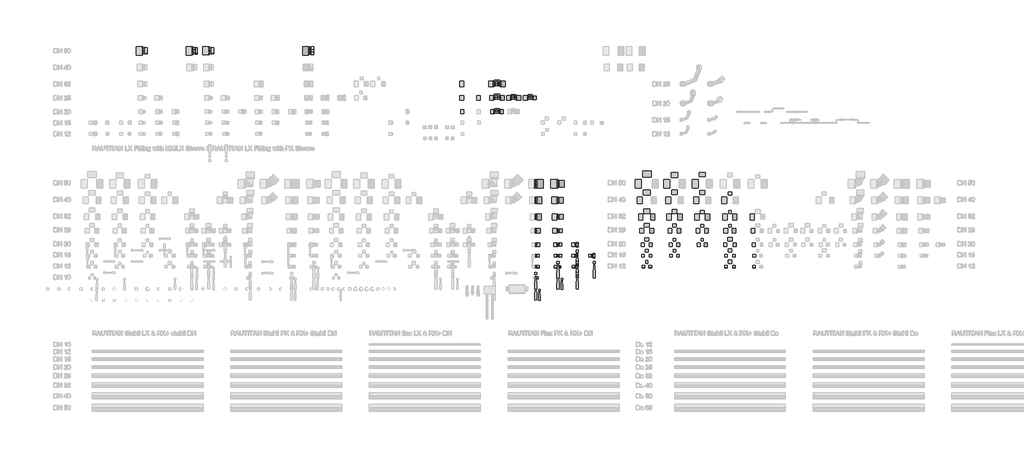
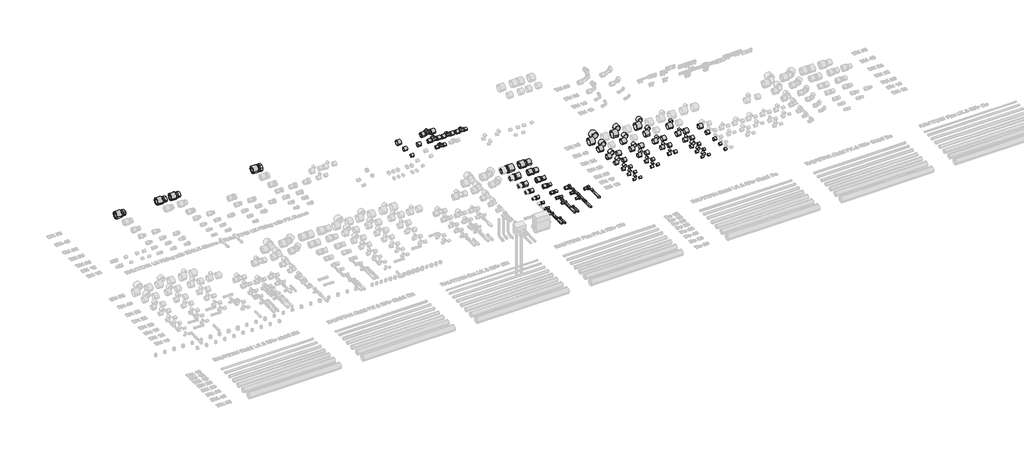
# One storey, part 6 of 18: 142 pipe fittings.
"""IFC4 building model written with IfcOpenShell, lengths in millimetres."""

from ifc_helpers import new_model, si_unit, origin, place, context, project, spatial, transform, mapped, element, save
from components import pipe_fitting_281267be, pipe_fitting_b595022a, pipe_fitting_c8a19661, pipe_fitting_2d968c61, pipe_fitting_88740129, pipe_fitting_afe3fb24, pipe_fitting_a2244846, pipe_fitting_1c786bbc, pipe_fitting_bc26b19e, pipe_fitting_cd328eca, pipe_fitting_7a5bf8d1, pipe_fitting_b25a488c, pipe_fitting_9d3ca083, pipe_fitting_fa567dae, pipe_fitting_5518694d, pipe_fitting_88b5795f, pipe_fitting_7fd93daa, pipe_fitting_5cd99660, pipe_fitting_8ed7db67, pipe_fitting_a0515556, pipe_fitting_efe7aa76, pipe_fitting_d834bf19, pipe_fitting_4a6725c8, pipe_fitting_6357771a, pipe_fitting_1b92578f, pipe_fitting_7819bb25, pipe_fitting_ce982b0c, pipe_fitting_48054694, pipe_fitting_ed985a5f, sleeve_lx_7_4_533efbed, pipe_fitting_5c01712a, dn1_c9c9eba3, dn1_749d9a03, dn1_037c3912, pipe_fitting_a8fbe6ac, pipe_fitting_02b715f6, pipe_fitting_d8f8e9d9

model = new_model("IFC4")

# Units and contexts
model_context = context("Model", 3, world=origin())
ifc_project = project(units=[si_unit("LENGTHUNIT", "METRE", prefix="MILLI")], contexts=[model_context])

# Site, building, storey
site = spatial("IfcSite", under=ifc_project)
building = spatial("IfcBuilding", under=site)
storey = spatial("IfcBuildingStorey", under=building, Name="REHAU Starting view", Elevation=0.0)

# Pipe fittings
placement = place(None, origin())
pipe_fitting_shape = pipe_fitting_281267be(model_context)
element("IfcPipeFitting", 1, ObjectType="RAUTITAN_LX_C.Coupling : RTI LX/PX C.C DN", at=placement, inside=storey, context=model_context, shape_type="MappedRepresentation", body=[
    mapped(pipe_fitting_shape, transform((4350.0, 100.0, 0.0), x_axis=(1.0, 0.0, 0.0), y_axis=(0.0, 1.0, 0.0), z_axis=(0.0, 0.0, 1.0))),
])
pipe_fitting_2_shape = pipe_fitting_b595022a(model_context)
element("IfcPipeFitting", 2, ObjectType="RAUTITAN_LX_C.Coupling : RTI LX/PX C.C DN", at=placement, inside=storey, context=model_context, shape_type="MappedRepresentation", body=[
    mapped(pipe_fitting_2_shape, transform((4350.0, 200.0, 0.0), x_axis=(1.0, 0.0, 0.0), y_axis=(0.0, 1.0, 0.0), z_axis=(0.0, 0.0, 1.0))),
])
pipe_fitting_3_shape = pipe_fitting_c8a19661(model_context)
element("IfcPipeFitting", 3, ObjectType="RAUTITAN_LX_C.Coupling : RTI LX/PX C.C DN", at=placement, inside=storey, context=model_context, shape_type="MappedRepresentation", body=[
    mapped(pipe_fitting_3_shape, transform((4350.0, 300.0, 0.0), x_axis=(1.0, 0.0, 0.0), y_axis=(0.0, 1.0, 0.0), z_axis=(0.0, 0.0, 1.0))),
])
pipe_fitting_4_shape = pipe_fitting_2d968c61(model_context)
element("IfcPipeFitting", 4, ObjectType="RAUTITAN_Union_LX : RTI LX/PX U DN", at=placement, inside=storey, context=model_context, shape_type="MappedRepresentation", body=[
    mapped(pipe_fitting_4_shape, transform((4000.0, 200.0, 0.0), x_axis=(1.0, 0.0, 0.0), y_axis=(0.0, 1.0, 0.0), z_axis=(0.0, 0.0, 1.0))),
])
pipe_fitting_5_shape = pipe_fitting_88740129(model_context)
element("IfcPipeFitting", 5, ObjectType="RAUTITAN_Union_LX : RTI LX/PX U DN", at=placement, inside=storey, context=model_context, shape_type="MappedRepresentation", body=[
    mapped(pipe_fitting_5_shape, transform((4000.0, 300.0, 0.0), x_axis=(1.0, 0.0, 0.0), y_axis=(0.0, 1.0, 0.0), z_axis=(0.0, 0.0, 1.0))),
])
pipe_fitting_6_shape = pipe_fitting_afe3fb24(model_context)
element("IfcPipeFitting", 6, ObjectType="RAUTITAN_Union_LX : RTI LX/PX U DN", at=placement, inside=storey, context=model_context, shape_type="MappedRepresentation", body=[
    mapped(pipe_fitting_6_shape, transform((4000.0, 425.0, 0.0), x_axis=(1.0, 0.0, 0.0), y_axis=(0.0, 1.0, 0.0), z_axis=(0.0, 0.0, 1.0))),
])
pipe_fitting_7_shape = pipe_fitting_a2244846(model_context)
element("IfcPipeFitting", 7, ObjectType="RAUTITAN_Union_LX : RTI LX/PX U DN", at=placement, inside=storey, context=model_context, shape_type="MappedRepresentation", body=[
    mapped(pipe_fitting_7_shape, transform((4000.0, 700.0, 0.0), x_axis=(1.0, 0.0, 0.0), y_axis=(0.0, 1.0, 0.0), z_axis=(0.0, 0.0, 1.0))),
])
pipe_fitting_8_shape = pipe_fitting_1c786bbc(model_context)
element("IfcPipeFitting", 8, ObjectType="RAUTITAN_Union_LX : RTI LX/PX U DN", at=placement, inside=storey, context=model_context, shape_type="MappedRepresentation", body=[
    mapped(pipe_fitting_8_shape, transform((4000.0, 850.0, 0.0), x_axis=(1.0, 0.0, 0.0), y_axis=(0.0, 1.0, 0.0), z_axis=(0.0, 0.0, 1.0))),
])
pipe_fitting_9_shape = pipe_fitting_bc26b19e(model_context)
element("IfcPipeFitting", 9, ObjectType="REHAU_RAUTITAN_T-piece RX+, outlet with internal thread : REHAU_RAUTITAN_T-piece RX+, outlet with internal thread", at=placement, inside=storey, context=model_context, shape_type="MappedRepresentation", body=[
    mapped(pipe_fitting_9_shape, transform((3650.0, 1625.0, 0.0), x_axis=(1.0, 0.0, 0.0), y_axis=(0.0, 1.0, 0.0), z_axis=(0.0, 0.0, 1.0))),
])
pipe_fitting_10_shape = pipe_fitting_cd328eca(model_context)
element("IfcPipeFitting", 10, ObjectType="RAUTITAN_Adapter_external_thread : RTI A external DE", at=placement, inside=storey, context=model_context, shape_type="MappedRepresentation", body=[
    mapped(pipe_fitting_10_shape, transform((455.77, 2050.0, 0.0), x_axis=(1.0, 0.0, 0.0), y_axis=(0.0, 1.0, 0.0), z_axis=(0.0, 0.0, 1.0))),
])
pipe_fitting_11_shape = pipe_fitting_7a5bf8d1(model_context)
element("IfcPipeFitting", 11, ObjectType="RAUTITAN_Sleeve PX2 : RTI S PX 2", at=placement, inside=storey, context=model_context, shape_type="MappedRepresentation", body=[
    mapped(pipe_fitting_11_shape, transform((450.0, 2050.0, 0.0), x_axis=(-1.0, 0.0, 0.0), y_axis=(0.0, -1.0, 0.0), z_axis=(0.0, 0.0, 1.0))),
])
element("IfcPipeFitting", 12, ObjectType="RAUTITAN_Adapter_external_thread LX+G_LX : RTI A external LX+G_LX DE", at=placement, inside=storey, context=model_context, shape_type="MappedRepresentation", body=[
    mapped(pipe_fitting_10_shape, transform((1055.77, 2050.0, 0.0), x_axis=(1.0, 0.0, 0.0), y_axis=(0.0, 1.0, 0.0), z_axis=(0.0, 0.0, 1.0))),
])
pipe_fitting_12_shape = pipe_fitting_b25a488c(model_context)
element("IfcPipeFitting", 13, ObjectType="RAUTITAN_Sleeve SDR 7,1 : RTI S SDR 7,4", at=placement, inside=storey, context=model_context, shape_type="MappedRepresentation", body=[
    mapped(pipe_fitting_12_shape, transform((1050.0, 2050.0, 0.0), x_axis=(-1.0, 0.0, 0.0), y_axis=(0.0, -1.0, 0.0), z_axis=(0.0, 0.0, 1.0))),
])
pipe_fitting_13_shape = pipe_fitting_9d3ca083(model_context)
element("IfcPipeFitting", 14, ObjectType="REHAU_RAUTITAN_T-piece RX+, outlet with internal thread : REHAU_RAUTITAN_T-piece RX+, outlet with internal thread", at=placement, inside=storey, context=model_context, shape_type="MappedRepresentation", body=[
    mapped(pipe_fitting_13_shape, transform((3950.0, 1625.0, 0.0), x_axis=(1.0, 0.0, 0.0), y_axis=(0.0, 1.0, 0.0), z_axis=(0.0, 0.0, 1.0))),
])
pipe_fitting_14_shape = pipe_fitting_fa567dae(model_context)
element("IfcPipeFitting", 15, ObjectType="REHAU_RAUTITAN_T-piece RX+, outlet with internal thread : REHAU_RAUTITAN_T-piece RX+, outlet with internal thread", at=placement, inside=storey, context=model_context, shape_type="MappedRepresentation", body=[
    mapped(pipe_fitting_14_shape, transform((3800.0, 1625.0, 0.0), x_axis=(1.0, 0.0, 0.0), y_axis=(0.0, 1.0, 0.0), z_axis=(0.0, 0.0, 1.0))),
])
pipe_fitting_15_shape = pipe_fitting_5518694d(model_context)
element("IfcPipeFitting", 16, ObjectType="REHAU_RAUTITAN_T-piece RX+, outlet with internal thread : REHAU_RAUTITAN_T-piece RX+, outlet with internal thread", at=placement, inside=storey, context=model_context, shape_type="MappedRepresentation", body=[
    mapped(pipe_fitting_15_shape, transform((3650.0, 1750.0, 0.0), x_axis=(1.0, 0.0, 0.0), y_axis=(0.0, 1.0, 0.0), z_axis=(0.0, 0.0, 1.0))),
])
pipe_fitting_16_shape = pipe_fitting_88b5795f(model_context)
element("IfcPipeFitting", 17, ObjectType="REHAU_RAUTITAN_T-piece RX+, outlet with internal thread : REHAU_RAUTITAN_T-piece RX+, outlet with internal thread", at=placement, inside=storey, context=model_context, shape_type="MappedRepresentation", body=[
    mapped(pipe_fitting_16_shape, transform((3650.0, 1500.0, 0.0), x_axis=(1.0, 0.0, 0.0), y_axis=(0.0, 1.0, 0.0), z_axis=(0.0, 0.0, 1.0))),
])
pipe_fitting_17_shape = pipe_fitting_7fd93daa(model_context)
element("IfcPipeFitting", 18, ObjectType="REHAU_RAUTITAN_Adaptor_RX+ stabil, with external thread : REHAU_RAUTITAN_Adaptor_RX+ stabil, with external thread", at=placement, inside=storey, context=model_context, shape_type="MappedRepresentation", body=[
    mapped(pipe_fitting_17_shape, transform((907.9, 2050.0, 0.0), x_axis=(1.0, 0.0, 0.0), y_axis=(0.0, 1.0, 0.0), z_axis=(0.0, 0.0, 1.0))),
])
pipe_fitting_18_shape = pipe_fitting_5cd99660(model_context)
element("IfcPipeFitting", 19, ObjectType="REHAU_RAUTITAN_Adaptor_RX+_union nut : REHAU_RAUTITAN_Adaptor_RX+_union nut", at=placement, inside=storey, context=model_context, shape_type="MappedRepresentation", body=[
    mapped(pipe_fitting_18_shape, transform((1966.2, 2050.0, 0.0), x_axis=(1.0, 0.0, 0.0), y_axis=(0.0, 1.0, 0.0), z_axis=(0.0, 0.0, 1.0))),
])
pipe_fitting_19_shape = pipe_fitting_8ed7db67(model_context)
element("IfcPipeFitting", 20, ObjectType="RAUTITAN_Union_LX : RTI LX/PX U DN", at=placement, inside=storey, context=model_context, shape_type="MappedRepresentation", body=[
    mapped(pipe_fitting_19_shape, transform((4000.0, 100.0, 0.0), x_axis=(1.0, 0.0, 0.0), y_axis=(0.0, 1.0, 0.0), z_axis=(0.0, 0.0, 1.0))),
])
pipe_fitting_20_shape = pipe_fitting_a0515556(model_context)
element("IfcPipeFitting", 21, ObjectType="RAUTITAN_Union_LX : RTI LX/PX U DN", at=placement, inside=storey, context=model_context, shape_type="MappedRepresentation", body=[
    mapped(pipe_fitting_20_shape, transform((4000.0, 0.0, 0.0), x_axis=(1.0, 0.0, 0.0), y_axis=(0.0, 1.0, 0.0), z_axis=(0.0, 0.0, 1.0))),
])
pipe_fitting_21_shape = pipe_fitting_efe7aa76(model_context)
element("IfcPipeFitting", 22, ObjectType="RAUTITAN_Transition_LX : RTI LX/PX Tr DN", at=placement, inside=storey, context=model_context, shape_type="MappedRepresentation", body=[
    mapped(pipe_fitting_21_shape, transform((4200.0, 550.0, 0.0), x_axis=(1.0, 0.0, 0.0), y_axis=(0.0, 1.0, 0.0), z_axis=(0.0, 0.0, 1.0))),
])
pipe_fitting_22_shape = pipe_fitting_d834bf19(model_context)
element("IfcPipeFitting", 23, ObjectType="RAUTITAN_Transition_LX : RTI LX/PX Tr DN", at=placement, inside=storey, context=model_context, shape_type="MappedRepresentation", body=[
    mapped(pipe_fitting_22_shape, transform((4200.0, 425.0, 0.0), x_axis=(1.0, 0.0, 0.0), y_axis=(0.0, 1.0, 0.0), z_axis=(0.0, 0.0, 1.0))),
])
pipe_fitting_23_shape = pipe_fitting_4a6725c8(model_context)
element("IfcPipeFitting", 24, ObjectType="RAUTITAN_Transition_LX : RTI LX/PX Tr DN", at=placement, inside=storey, context=model_context, shape_type="MappedRepresentation", body=[
    mapped(pipe_fitting_23_shape, transform((4200.0, 300.0, 0.0), x_axis=(1.0, 0.0, 0.0), y_axis=(0.0, 1.0, 0.0), z_axis=(0.0, 0.0, 1.0))),
])
pipe_fitting_24_shape = pipe_fitting_6357771a(model_context)
element("IfcPipeFitting", 25, ObjectType="RAUTITAN_Transition_LX : RTI LX/PX Tr DN", at=placement, inside=storey, context=model_context, shape_type="MappedRepresentation", body=[
    mapped(pipe_fitting_24_shape, transform((4200.0, 700.0, 0.0), x_axis=(1.0, 0.0, 0.0), y_axis=(0.0, 1.0, 0.0), z_axis=(0.0, 0.0, 1.0))),
])
pipe_fitting_25_shape = pipe_fitting_1b92578f(model_context)
element("IfcPipeFitting", 26, ObjectType="RAUTITAN_Transition_LX : RTI LX/PX Tr DN", at=placement, inside=storey, context=model_context, shape_type="MappedRepresentation", body=[
    mapped(pipe_fitting_25_shape, transform((4200.0, 850.0, 0.0), x_axis=(1.0, 0.0, 0.0), y_axis=(0.0, 1.0, 0.0), z_axis=(0.0, 0.0, 1.0))),
])
pipe_fitting_26_shape = pipe_fitting_7819bb25(model_context)
element("IfcPipeFitting", 27, ObjectType="RAUTITAN_Transition_LX : RTI LX/PX Tr DN", at=placement, inside=storey, context=model_context, shape_type="MappedRepresentation", body=[
    mapped(pipe_fitting_26_shape, transform((4200.0, 200.0, 0.0), x_axis=(1.0, 0.0, 0.0), y_axis=(0.0, 1.0, 0.0), z_axis=(0.0, 0.0, 1.0))),
])
pipe_fitting_27_shape = pipe_fitting_ce982b0c(model_context)
element("IfcPipeFitting", 28, ObjectType="RAUTITAN_Transition_LX : RTI LX/PX Tr DN", at=placement, inside=storey, context=model_context, shape_type="MappedRepresentation", body=[
    mapped(pipe_fitting_27_shape, transform((4200.0, 100.0, 0.0), x_axis=(1.0, 0.0, 0.0), y_axis=(0.0, 1.0, 0.0), z_axis=(0.0, 0.0, 1.0))),
])
pipe_fitting_28_shape = pipe_fitting_48054694(model_context)
element("IfcPipeFitting", 29, ObjectType="RAUTITAN_Union_LX : RTI LX/PX U DN", at=placement, inside=storey, context=model_context, shape_type="MappedRepresentation", body=[
    mapped(pipe_fitting_28_shape, transform((4000.0, 550.0, 0.0), x_axis=(1.0, 0.0, 0.0), y_axis=(0.0, 1.0, 0.0), z_axis=(0.0, 0.0, 1.0))),
])
pipe_fitting_29_shape = pipe_fitting_ed985a5f(model_context)
element("IfcPipeFitting", 30, ObjectType="RAUTITAN_LX_C.Coupling : RTI LX/PX C.C DN", at=placement, inside=storey, context=model_context, shape_type="MappedRepresentation", body=[
    mapped(pipe_fitting_29_shape, transform((4500.0, 200.0, 0.0), x_axis=(1.0, 0.0, 0.0), y_axis=(0.0, 1.0, 0.0), z_axis=(0.0, 0.0, 1.0))),
])
sleeve_lx_7_4_shape = sleeve_lx_7_4_533efbed(model_context)
element("IfcPipeFitting", 31, ObjectType="Sleeve : LX 7,4", at=placement, inside=storey, context=model_context, shape_type="MappedRepresentation", body=[
    mapped(sleeve_lx_7_4_shape, transform((4005.5, 0.0, 0.0), x_axis=(1.0, 0.0, 0.0), y_axis=(0.0, 1.0, 0.0), z_axis=(0.0, 0.0, 1.0))),
])
element("IfcPipeFitting", 32, ObjectType="Sleeve : LX 7,4", at=placement, inside=storey, context=model_context, shape_type="MappedRepresentation", body=[
    mapped(sleeve_lx_7_4_shape, transform((4208.5, 100.0, 0.0), x_axis=(1.0, 0.0, 0.0), y_axis=(0.0, 1.0, 0.0), z_axis=(0.0, 0.0, 1.0))),
])
pipe_fitting_30_shape = pipe_fitting_5c01712a(model_context)
element("IfcPipeFitting", 33, ObjectType="Sleeve : LX 7,4", at=placement, inside=storey, context=model_context, shape_type="MappedRepresentation", body=[
    mapped(pipe_fitting_30_shape, transform((4189.0, 700.0, 0.0), x_axis=(-1.0, 0.0, 0.0), y_axis=(0.0, -1.0, 0.0), z_axis=(0.0, 0.0, 1.0))),
])
element("IfcPipeFitting", 34, ObjectType="Sleeve : LX 7,4", at=placement, inside=storey, context=model_context, shape_type="MappedRepresentation", body=[
    mapped(pipe_fitting_30_shape, transform((4211.75, 850.0, 0.0), x_axis=(1.0, 0.0, 0.0), y_axis=(0.0, 1.0, 0.0), z_axis=(0.0, 0.0, 1.0))),
])
element("IfcPipeFitting", 35, ObjectType="Sleeve : LX 7,4", at=placement, inside=storey, context=model_context, shape_type="MappedRepresentation", body=[
    mapped(pipe_fitting_30_shape, transform((4011.0, 700.0, 0.0), x_axis=(1.0, 0.0, 0.0), y_axis=(0.0, 1.0, 0.0), z_axis=(0.0, 0.0, 1.0))),
])
element("IfcPipeFitting", 36, ObjectType="Sleeve : LX 7,4", at=placement, inside=storey, context=model_context, shape_type="MappedRepresentation", body=[
    mapped(pipe_fitting_12_shape, transform((4188.25, 850.0, 0.0), x_axis=(-1.0, 0.0, 0.0), y_axis=(0.0, -1.0, 0.0), z_axis=(0.0, 0.0, 1.0))),
])
element("IfcPipeFitting", 37, ObjectType="Sleeve : LX 7,4", at=placement, inside=storey, context=model_context, shape_type="MappedRepresentation", body=[
    mapped(pipe_fitting_12_shape, transform((4012.5, 850.0, 0.0), x_axis=(1.0, 0.0, 0.0), y_axis=(0.0, 1.0, 0.0), z_axis=(0.0, 0.0, 1.0))),
])
dn1_shape = dn1_c9c9eba3(model_context)
element("IfcPipeFitting", 38, ObjectType="Sleeve : PX 7,4", at=placement, inside=storey, context=model_context, shape_type="MappedRepresentation", body=[
    mapped(dn1_shape, transform((4981.0, 100.0, 0.0), x_axis=(-1.0, 0.0, 0.0), y_axis=(0.0, -1.0, 0.0), z_axis=(0.0, 0.0, 1.0))),
])
element("IfcPipeFitting", 39, ObjectType="Sleeve : PX 7,4", at=placement, inside=storey, context=model_context, shape_type="MappedRepresentation", body=[
    mapped(dn1_shape, transform((5000.0, 132.3, 0.0), x_axis=(0.0, 1.0, 0.0), y_axis=(-1.0, 0.0, 0.0), z_axis=(0.0, 0.0, 1.0))),
])
element("IfcPipeFitting", 40, ObjectType="Sleeve : PX 7,4", at=placement, inside=storey, context=model_context, shape_type="MappedRepresentation", body=[
    mapped(dn1_shape, transform((5019.0, 100.0, 0.0), x_axis=(1.0, 0.0, 0.0), y_axis=(0.0, 1.0, 0.0), z_axis=(0.0, 0.0, 1.0))),
])
element("IfcPipeFitting", 41, ObjectType="Sleeve : PX 7,4", at=placement, inside=storey, context=model_context, shape_type="MappedRepresentation", body=[
    mapped(dn1_shape, transform((5250.0, 232.3, 0.0), x_axis=(0.0, 1.0, 0.0), y_axis=(-1.0, 0.0, 0.0), z_axis=(0.0, 0.0, 1.0))),
])
element("IfcPipeFitting", 42, ObjectType="Sleeve : PX 7,4", at=placement, inside=storey, context=model_context, shape_type="MappedRepresentation", body=[
    mapped(dn1_shape, transform((5500.0, 332.3, 0.0), x_axis=(0.0, 1.0, 0.0), y_axis=(-1.0, 0.0, 0.0), z_axis=(0.0, 0.0, 1.0))),
])
element("IfcPipeFitting", 43, ObjectType="Sleeve : PX 7,4", at=placement, inside=storey, context=model_context, shape_type="MappedRepresentation", body=[
    mapped(dn1_shape, transform((5750.0, 457.3, 0.0), x_axis=(0.0, 1.0, 0.0), y_axis=(-1.0, 0.0, 0.0), z_axis=(0.0, 0.0, 1.0))),
])
element("IfcPipeFitting", 44, ObjectType="Sleeve : PX 7,4", at=placement, inside=storey, context=model_context, shape_type="MappedRepresentation", body=[
    mapped(dn1_shape, transform((5979.5, 100.0, 0.0), x_axis=(-1.0, 0.0, 0.0), y_axis=(0.0, -1.0, 0.0), z_axis=(0.0, 0.0, 1.0))),
])
element("IfcPipeFitting", 45, ObjectType="Sleeve : PX 7,4", at=placement, inside=storey, context=model_context, shape_type="MappedRepresentation", body=[
    mapped(dn1_shape, transform((5727.0, 100.0, 0.0), x_axis=(-1.0, 0.0, 0.0), y_axis=(0.0, -1.0, 0.0), z_axis=(0.0, 0.0, 1.0))),
])
element("IfcPipeFitting", 46, ObjectType="Sleeve : PX 7,4", at=placement, inside=storey, context=model_context, shape_type="MappedRepresentation", body=[
    mapped(dn1_shape, transform((5773.0, 100.0, 0.0), x_axis=(1.0, 0.0, 0.0), y_axis=(0.0, 1.0, 0.0), z_axis=(0.0, 0.0, 1.0))),
])
element("IfcPipeFitting", 47, ObjectType="Sleeve : PX 7,4", at=placement, inside=storey, context=model_context, shape_type="MappedRepresentation", body=[
    mapped(dn1_shape, transform((4209.55, 200.0, 0.0), x_axis=(1.0, 0.0, 0.0), y_axis=(0.0, 1.0, 0.0), z_axis=(0.0, 0.0, 1.0))),
])
element("IfcPipeFitting", 48, ObjectType="Sleeve : PX 7,4", at=placement, inside=storey, context=model_context, shape_type="MappedRepresentation", body=[
    mapped(dn1_shape, transform((4006.3, 100.0, 0.0), x_axis=(1.0, 0.0, 0.0), y_axis=(0.0, 1.0, 0.0), z_axis=(0.0, 0.0, 1.0))),
])
element("IfcPipeFitting", 49, ObjectType="Sleeve : PX 7,4", at=placement, inside=storey, context=model_context, shape_type="MappedRepresentation", body=[
    mapped(dn1_shape, transform((4191.5, 100.0, 0.0), x_axis=(-1.0, 0.0, 0.0), y_axis=(0.0, -1.0, 0.0), z_axis=(0.0, 0.0, 1.0))),
])
dn1_2_shape = dn1_749d9a03(model_context)
element("IfcPipeFitting", 50, ObjectType="Sleeve : PX 7,4", at=placement, inside=storey, context=model_context, shape_type="MappedRepresentation", body=[
    mapped(dn1_2_shape, transform((4978.9, 200.0, 0.0), x_axis=(-1.0, 0.0, 0.0), y_axis=(0.0, -1.0, 0.0), z_axis=(0.0, 0.0, 1.0))),
])
element("IfcPipeFitting", 51, ObjectType="Sleeve : PX 7,4", at=placement, inside=storey, context=model_context, shape_type="MappedRepresentation", body=[
    mapped(dn1_2_shape, transform((5000.0, 232.3, 0.0), x_axis=(0.0, 1.0, 0.0), y_axis=(-1.0, 0.0, 0.0), z_axis=(0.0, 0.0, 1.0))),
])
element("IfcPipeFitting", 52, ObjectType="Sleeve : PX 7,4", at=placement, inside=storey, context=model_context, shape_type="MappedRepresentation", body=[
    mapped(dn1_2_shape, transform((5021.1, 200.0, 0.0), x_axis=(1.0, 0.0, 0.0), y_axis=(0.0, 1.0, 0.0), z_axis=(0.0, 0.0, 1.0))),
])
element("IfcPipeFitting", 53, ObjectType="Sleeve : PX 7,4", at=placement, inside=storey, context=model_context, shape_type="MappedRepresentation", body=[
    mapped(dn1_2_shape, transform((5250.0, 332.3, 0.0), x_axis=(0.0, 1.0, 0.0), y_axis=(-1.0, 0.0, 0.0), z_axis=(0.0, 0.0, 1.0))),
])
element("IfcPipeFitting", 54, ObjectType="Sleeve : PX 7,4", at=placement, inside=storey, context=model_context, shape_type="MappedRepresentation", body=[
    mapped(dn1_2_shape, transform((5230.9, 200.0, 0.0), x_axis=(-1.0, 0.0, 0.0), y_axis=(0.0, -1.0, 0.0), z_axis=(0.0, 0.0, 1.0))),
])
element("IfcPipeFitting", 55, ObjectType="Sleeve : PX 7,4", at=placement, inside=storey, context=model_context, shape_type="MappedRepresentation", body=[
    mapped(dn1_2_shape, transform((5269.1, 200.0, 0.0), x_axis=(1.0, 0.0, 0.0), y_axis=(0.0, 1.0, 0.0), z_axis=(0.0, 0.0, 1.0))),
])
element("IfcPipeFitting", 56, ObjectType="Sleeve : PX 7,4", at=placement, inside=storey, context=model_context, shape_type="MappedRepresentation", body=[
    mapped(dn1_2_shape, transform((5500.0, 457.3, 0.0), x_axis=(0.0, 1.0, 0.0), y_axis=(-1.0, 0.0, 0.0), z_axis=(0.0, 0.0, 1.0))),
])
element("IfcPipeFitting", 57, ObjectType="Sleeve : PX 7,4", at=placement, inside=storey, context=model_context, shape_type="MappedRepresentation", body=[
    mapped(dn1_2_shape, transform((5750.0, 582.3, 0.0), x_axis=(0.0, 1.0, 0.0), y_axis=(-1.0, 0.0, 0.0), z_axis=(0.0, 0.0, 1.0))),
])
element("IfcPipeFitting", 58, ObjectType="Sleeve : PX 7,4", at=placement, inside=storey, context=model_context, shape_type="MappedRepresentation", body=[
    mapped(dn1_2_shape, transform((5726.4, 200.0, 0.0), x_axis=(-1.0, 0.0, 0.0), y_axis=(0.0, -1.0, 0.0), z_axis=(0.0, 0.0, 1.0))),
])
element("IfcPipeFitting", 59, ObjectType="Sleeve : PX 7,4", at=placement, inside=storey, context=model_context, shape_type="MappedRepresentation", body=[
    mapped(dn1_2_shape, transform((5773.6, 200.0, 0.0), x_axis=(1.0, 0.0, 0.0), y_axis=(0.0, 1.0, 0.0), z_axis=(0.0, 0.0, 1.0))),
])
element("IfcPipeFitting", 60, ObjectType="Sleeve : PX 7,4", at=placement, inside=storey, context=model_context, shape_type="MappedRepresentation", body=[
    mapped(dn1_2_shape, transform((5980.9, 200.0, 0.0), x_axis=(-1.0, 0.0, 0.0), y_axis=(0.0, -1.0, 0.0), z_axis=(0.0, 0.0, 1.0))),
])
element("IfcPipeFitting", 61, ObjectType="Sleeve : PX 7,4", at=placement, inside=storey, context=model_context, shape_type="MappedRepresentation", body=[
    mapped(dn1_2_shape, transform((4210.0, 300.0, 0.0), x_axis=(1.0, 0.0, 0.0), y_axis=(0.0, 1.0, 0.0), z_axis=(0.0, 0.0, 1.0))),
])
element("IfcPipeFitting", 62, ObjectType="Sleeve : PX 7,4", at=placement, inside=storey, context=model_context, shape_type="MappedRepresentation", body=[
    mapped(dn1_2_shape, transform((4190.45, 200.0, 0.0), x_axis=(-1.0, 0.0, 0.0), y_axis=(0.0, -1.0, 0.0), z_axis=(0.0, 0.0, 1.0))),
])
element("IfcPipeFitting", 63, ObjectType="Sleeve : PX 7,4", at=placement, inside=storey, context=model_context, shape_type="MappedRepresentation", body=[
    mapped(dn1_2_shape, transform((4006.8, 200.0, 0.0), x_axis=(1.0, 0.0, 0.0), y_axis=(0.0, 1.0, 0.0), z_axis=(0.0, 0.0, 1.0))),
])
dn1_3_shape = dn1_037c3912(model_context)
element("IfcPipeFitting", 64, ObjectType="Sleeve : PX 7,4", at=placement, inside=storey, context=model_context, shape_type="MappedRepresentation", body=[
    mapped(dn1_3_shape, transform((4976.2, 300.0, 0.0), x_axis=(-1.0, 0.0, 0.0), y_axis=(0.0, -1.0, 0.0), z_axis=(0.0, 0.0, 1.0))),
])
element("IfcPipeFitting", 65, ObjectType="Sleeve : PX 7,4", at=placement, inside=storey, context=model_context, shape_type="MappedRepresentation", body=[
    mapped(dn1_3_shape, transform((5000.0, 332.3, 0.0), x_axis=(0.0, 1.0, 0.0), y_axis=(-1.0, 0.0, 0.0), z_axis=(0.0, 0.0, 1.0))),
])
element("IfcPipeFitting", 66, ObjectType="Sleeve : PX 7,4", at=placement, inside=storey, context=model_context, shape_type="MappedRepresentation", body=[
    mapped(dn1_3_shape, transform((5023.8, 300.0, 0.0), x_axis=(1.0, 0.0, 0.0), y_axis=(0.0, 1.0, 0.0), z_axis=(0.0, 0.0, 1.0))),
])
element("IfcPipeFitting", 67, ObjectType="Sleeve : PX 7,4", at=placement, inside=storey, context=model_context, shape_type="MappedRepresentation", body=[
    mapped(dn1_3_shape, transform((5228.7, 300.0, 0.0), x_axis=(-1.0, 0.0, 0.0), y_axis=(0.0, -1.0, 0.0), z_axis=(0.0, 0.0, 1.0))),
])
element("IfcPipeFitting", 68, ObjectType="Sleeve : PX 7,4", at=placement, inside=storey, context=model_context, shape_type="MappedRepresentation", body=[
    mapped(dn1_3_shape, transform((5271.3, 300.0, 0.0), x_axis=(1.0, 0.0, 0.0), y_axis=(0.0, 1.0, 0.0), z_axis=(0.0, 0.0, 1.0))),
])
element("IfcPipeFitting", 69, ObjectType="Sleeve : PX 7,4", at=placement, inside=storey, context=model_context, shape_type="MappedRepresentation", body=[
    mapped(dn1_3_shape, transform((5250.0, 457.3, 0.0), x_axis=(0.0, 1.0, 0.0), y_axis=(-1.0, 0.0, 0.0), z_axis=(0.0, 0.0, 1.0))),
])
element("IfcPipeFitting", 70, ObjectType="Sleeve : PX 7,4", at=placement, inside=storey, context=model_context, shape_type="MappedRepresentation", body=[
    mapped(dn1_3_shape, transform((5480.7, 300.0, 0.0), x_axis=(-1.0, 0.0, 0.0), y_axis=(0.0, -1.0, 0.0), z_axis=(0.0, 0.0, 1.0))),
])
element("IfcPipeFitting", 71, ObjectType="Sleeve : PX 7,4", at=placement, inside=storey, context=model_context, shape_type="MappedRepresentation", body=[
    mapped(dn1_3_shape, transform((5519.3, 300.0, 0.0), x_axis=(1.0, 0.0, 0.0), y_axis=(0.0, 1.0, 0.0), z_axis=(0.0, 0.0, 1.0))),
])
element("IfcPipeFitting", 72, ObjectType="Sleeve : PX 7,4", at=placement, inside=storey, context=model_context, shape_type="MappedRepresentation", body=[
    mapped(dn1_3_shape, transform((5500.0, 582.3, 0.0), x_axis=(0.0, 1.0, 0.0), y_axis=(-1.0, 0.0, 0.0), z_axis=(0.0, 0.0, 1.0))),
])
element("IfcPipeFitting", 73, ObjectType="Sleeve : PX 7,4", at=placement, inside=storey, context=model_context, shape_type="MappedRepresentation", body=[
    mapped(dn1_3_shape, transform((5722.7, 300.0, 0.0), x_axis=(-1.0, 0.0, 0.0), y_axis=(0.0, -1.0, 0.0), z_axis=(0.0, 0.0, 1.0))),
])
element("IfcPipeFitting", 74, ObjectType="Sleeve : PX 7,4", at=placement, inside=storey, context=model_context, shape_type="MappedRepresentation", body=[
    mapped(dn1_3_shape, transform((5777.3, 300.0, 0.0), x_axis=(1.0, 0.0, 0.0), y_axis=(0.0, 1.0, 0.0), z_axis=(0.0, 0.0, 1.0))),
])
element("IfcPipeFitting", 75, ObjectType="Sleeve : PX 7,4", at=placement, inside=storey, context=model_context, shape_type="MappedRepresentation", body=[
    mapped(dn1_3_shape, transform((5750.0, 232.3, 0.0), x_axis=(0.0, 1.0, 0.0), y_axis=(-1.0, 0.0, 0.0), z_axis=(0.0, 0.0, 1.0))),
])
element("IfcPipeFitting", 76, ObjectType="Sleeve : PX 7,4", at=placement, inside=storey, context=model_context, shape_type="MappedRepresentation", body=[
    mapped(dn1_3_shape, transform((5750.0, 132.3, 0.0), x_axis=(0.0, 1.0, 0.0), y_axis=(-1.0, 0.0, 0.0), z_axis=(0.0, 0.0, 1.0))),
])
element("IfcPipeFitting", 77, ObjectType="Sleeve : PX 7,4", at=placement, inside=storey, context=model_context, shape_type="MappedRepresentation", body=[
    mapped(dn1_3_shape, transform((5978.7, 300.0, 0.0), x_axis=(-1.0, 0.0, 0.0), y_axis=(0.0, -1.0, 0.0), z_axis=(0.0, 0.0, 1.0))),
])
element("IfcPipeFitting", 78, ObjectType="Sleeve : PX 7,4", at=placement, inside=storey, context=model_context, shape_type="MappedRepresentation", body=[
    mapped(dn1_3_shape, transform((5750.0, 749.0, 0.0), x_axis=(0.0, 1.0, 0.0), y_axis=(-1.0, 0.0, 0.0), z_axis=(0.0, 0.0, 1.0))),
])
element("IfcPipeFitting", 79, ObjectType="Sleeve : PX 7,4", at=placement, inside=storey, context=model_context, shape_type="MappedRepresentation", body=[
    mapped(dn1_3_shape, transform((4211.85, 425.0, 0.0), x_axis=(1.0, 0.0, 0.0), y_axis=(0.0, 1.0, 0.0), z_axis=(0.0, 0.0, 1.0))),
])
element("IfcPipeFitting", 80, ObjectType="Sleeve : PX 7,4", at=placement, inside=storey, context=model_context, shape_type="MappedRepresentation", body=[
    mapped(dn1_3_shape, transform((4190.0, 300.0, 0.0), x_axis=(-1.0, 0.0, 0.0), y_axis=(0.0, -1.0, 0.0), z_axis=(0.0, 0.0, 1.0))),
])
element("IfcPipeFitting", 81, ObjectType="Sleeve : PX 7,4", at=placement, inside=storey, context=model_context, shape_type="MappedRepresentation", body=[
    mapped(dn1_3_shape, transform((4007.2, 300.0, 0.0), x_axis=(1.0, 0.0, 0.0), y_axis=(0.0, 1.0, 0.0), z_axis=(0.0, 0.0, 1.0))),
])
element("IfcPipeFitting", 82, ObjectType="Sleeve : PX 7,4", at=placement, inside=storey, context=model_context, shape_type="MappedRepresentation", body=[
    mapped(dn1_3_shape, transform((3350.0, 1500.0, 0.0), x_axis=(-1.0, 0.0, 0.0), y_axis=(0.0, -1.0, 0.0), z_axis=(0.0, 0.0, 1.0))),
])
element("IfcPipeFitting", 83, ObjectType="Sleeve : PX 7,4", at=placement, inside=storey, context=model_context, shape_type="MappedRepresentation", body=[
    mapped(dn1_3_shape, transform((3978.14, 1625.0, 0.0), x_axis=(1.0, 0.0, 0.0), y_axis=(0.0, 1.0, 0.0), z_axis=(0.0, 0.0, 1.0))),
])
element("IfcPipeFitting", 84, ObjectType="Sleeve : PX 7,4", at=placement, inside=storey, context=model_context, shape_type="MappedRepresentation", body=[
    mapped(dn1_3_shape, transform((3678.0, 1500.0, 0.0), x_axis=(1.0, 0.0, 0.0), y_axis=(0.0, 1.0, 0.0), z_axis=(0.0, 0.0, 1.0))),
])
element("IfcPipeFitting", 85, ObjectType="Sleeve : PX 7,4", at=placement, inside=storey, context=model_context, shape_type="MappedRepresentation", body=[
    mapped(dn1_3_shape, transform((3622.0, 1500.0, 0.0), x_axis=(-1.0, 0.0, 0.0), y_axis=(0.0, -1.0, 0.0), z_axis=(0.0, 0.0, 1.0))),
])
pipe_fitting_31_shape = pipe_fitting_a8fbe6ac(model_context)
element("IfcPipeFitting", 86, ObjectType="Sleeve : PX 7,4", at=placement, inside=storey, context=model_context, shape_type="MappedRepresentation", body=[
    mapped(pipe_fitting_31_shape, transform((4972.0, 425.0, 0.0), x_axis=(-1.0, 0.0, 0.0), y_axis=(0.0, -1.0, 0.0), z_axis=(0.0, 0.0, 1.0))),
])
element("IfcPipeFitting", 87, ObjectType="Sleeve : PX 7,4", at=placement, inside=storey, context=model_context, shape_type="MappedRepresentation", body=[
    mapped(pipe_fitting_31_shape, transform((5000.0, 457.3, 0.0), x_axis=(0.0, 1.0, 0.0), y_axis=(-1.0, 0.0, 0.0), z_axis=(0.0, 0.0, 1.0))),
])
element("IfcPipeFitting", 88, ObjectType="Sleeve : PX 7,4", at=placement, inside=storey, context=model_context, shape_type="MappedRepresentation", body=[
    mapped(pipe_fitting_31_shape, transform((5028.0, 425.0, 0.0), x_axis=(1.0, 0.0, 0.0), y_axis=(0.0, 1.0, 0.0), z_axis=(0.0, 0.0, 1.0))),
])
element("IfcPipeFitting", 89, ObjectType="Sleeve : PX 7,4", at=placement, inside=storey, context=model_context, shape_type="MappedRepresentation", body=[
    mapped(pipe_fitting_31_shape, transform((5225.5, 425.0, 0.0), x_axis=(-1.0, 0.0, 0.0), y_axis=(0.0, -1.0, 0.0), z_axis=(0.0, 0.0, 1.0))),
])
element("IfcPipeFitting", 90, ObjectType="Sleeve : PX 7,4", at=placement, inside=storey, context=model_context, shape_type="MappedRepresentation", body=[
    mapped(pipe_fitting_31_shape, transform((5274.5, 425.0, 0.0), x_axis=(1.0, 0.0, 0.0), y_axis=(0.0, 1.0, 0.0), z_axis=(0.0, 0.0, 1.0))),
])
element("IfcPipeFitting", 91, ObjectType="Sleeve : PX 7,4", at=placement, inside=storey, context=model_context, shape_type="MappedRepresentation", body=[
    mapped(pipe_fitting_31_shape, transform((5250.0, 582.3, 0.0), x_axis=(0.0, 1.0, 0.0), y_axis=(-1.0, 0.0, 0.0), z_axis=(0.0, 0.0, 1.0))),
])
element("IfcPipeFitting", 92, ObjectType="Sleeve : PX 7,4", at=placement, inside=storey, context=model_context, shape_type="MappedRepresentation", body=[
    mapped(pipe_fitting_31_shape, transform((5478.0, 425.0, 0.0), x_axis=(-1.0, 0.0, 0.0), y_axis=(0.0, -1.0, 0.0), z_axis=(0.0, 0.0, 1.0))),
])
element("IfcPipeFitting", 93, ObjectType="Sleeve : PX 7,4", at=placement, inside=storey, context=model_context, shape_type="MappedRepresentation", body=[
    mapped(pipe_fitting_31_shape, transform((5522.0, 425.0, 0.0), x_axis=(1.0, 0.0, 0.0), y_axis=(0.0, 1.0, 0.0), z_axis=(0.0, 0.0, 1.0))),
])
element("IfcPipeFitting", 94, ObjectType="Sleeve : PX 7,4", at=placement, inside=storey, context=model_context, shape_type="MappedRepresentation", body=[
    mapped(pipe_fitting_31_shape, transform((5730.0, 425.0, 0.0), x_axis=(-1.0, 0.0, 0.0), y_axis=(0.0, -1.0, 0.0), z_axis=(0.0, 0.0, 1.0))),
])
element("IfcPipeFitting", 95, ObjectType="Sleeve : PX 7,4", at=placement, inside=storey, context=model_context, shape_type="MappedRepresentation", body=[
    mapped(pipe_fitting_31_shape, transform((5770.0, 425.0, 0.0), x_axis=(1.0, 0.0, 0.0), y_axis=(0.0, 1.0, 0.0), z_axis=(0.0, 0.0, 1.0))),
])
element("IfcPipeFitting", 96, ObjectType="Sleeve : PX 7,4", at=placement, inside=storey, context=model_context, shape_type="MappedRepresentation", body=[
    mapped(pipe_fitting_31_shape, transform((5750.0, 332.3, 0.0), x_axis=(0.0, 1.0, 0.0), y_axis=(-1.0, 0.0, 0.0), z_axis=(0.0, 0.0, 1.0))),
])
element("IfcPipeFitting", 97, ObjectType="Sleeve : PX 7,4", at=placement, inside=storey, context=model_context, shape_type="MappedRepresentation", body=[
    mapped(pipe_fitting_31_shape, transform((5975.5, 425.0, 0.0), x_axis=(-1.0, 0.0, 0.0), y_axis=(0.0, -1.0, 0.0), z_axis=(0.0, 0.0, 1.0))),
])
element("IfcPipeFitting", 98, ObjectType="Sleeve : PX 7,4", at=placement, inside=storey, context=model_context, shape_type="MappedRepresentation", body=[
    mapped(pipe_fitting_31_shape, transform((5500.0, 753.0, 0.0), x_axis=(0.0, 1.0, 0.0), y_axis=(-1.0, 0.0, 0.0), z_axis=(0.0, 0.0, 1.0))),
])
element("IfcPipeFitting", 99, ObjectType="Sleeve : PX 7,4", at=placement, inside=storey, context=model_context, shape_type="MappedRepresentation", body=[
    mapped(pipe_fitting_31_shape, transform((4212.65, 550.0, 0.0), x_axis=(1.0, 0.0, 0.0), y_axis=(0.0, 1.0, 0.0), z_axis=(0.0, 0.0, 1.0))),
])
element("IfcPipeFitting", 100, ObjectType="Sleeve : PX 7,4", at=placement, inside=storey, context=model_context, shape_type="MappedRepresentation", body=[
    mapped(pipe_fitting_31_shape, transform((4188.15, 425.0, 0.0), x_axis=(-1.0, 0.0, 0.0), y_axis=(0.0, -1.0, 0.0), z_axis=(0.0, 0.0, 1.0))),
])
element("IfcPipeFitting", 101, ObjectType="Sleeve : PX 7,4", at=placement, inside=storey, context=model_context, shape_type="MappedRepresentation", body=[
    mapped(pipe_fitting_31_shape, transform((4008.0, 425.0, 0.0), x_axis=(1.0, 0.0, 0.0), y_axis=(0.0, 1.0, 0.0), z_axis=(0.0, 0.0, 1.0))),
])
element("IfcPipeFitting", 102, ObjectType="Sleeve : PX 7,4", at=placement, inside=storey, context=model_context, shape_type="MappedRepresentation", body=[
    mapped(pipe_fitting_31_shape, transform((3500.0, 1625.0, 0.0), x_axis=(-1.0, 0.0, 0.0), y_axis=(0.0, -1.0, 0.0), z_axis=(0.0, 0.0, 1.0))),
])
element("IfcPipeFitting", 103, ObjectType="Sleeve : PX 7,4", at=placement, inside=storey, context=model_context, shape_type="MappedRepresentation", body=[
    mapped(pipe_fitting_31_shape, transform((3350.0, 1625.0, 0.0), x_axis=(-1.0, 0.0, 0.0), y_axis=(0.0, -1.0, 0.0), z_axis=(0.0, 0.0, 1.0))),
])
element("IfcPipeFitting", 104, ObjectType="Sleeve : PX 7,4", at=placement, inside=storey, context=model_context, shape_type="MappedRepresentation", body=[
    mapped(pipe_fitting_31_shape, transform((3920.84, 1625.0, 0.0), x_axis=(-1.0, 0.0, 0.0), y_axis=(0.0, -1.0, 0.0), z_axis=(0.0, 0.0, 1.0))),
])
element("IfcPipeFitting", 105, ObjectType="Sleeve : PX 7,4", at=placement, inside=storey, context=model_context, shape_type="MappedRepresentation", body=[
    mapped(pipe_fitting_31_shape, transform((3829.0, 1625.0, 0.0), x_axis=(1.0, 0.0, 0.0), y_axis=(0.0, 1.0, 0.0), z_axis=(0.0, 0.0, 1.0))),
])
element("IfcPipeFitting", 106, ObjectType="Sleeve : PX 7,4", at=placement, inside=storey, context=model_context, shape_type="MappedRepresentation", body=[
    mapped(pipe_fitting_31_shape, transform((3771.0, 1625.0, 0.0), x_axis=(-1.0, 0.0, 0.0), y_axis=(0.0, -1.0, 0.0), z_axis=(0.0, 0.0, 1.0))),
])
element("IfcPipeFitting", 107, ObjectType="Sleeve : PX 7,4", at=placement, inside=storey, context=model_context, shape_type="MappedRepresentation", body=[
    mapped(pipe_fitting_31_shape, transform((3683.0, 1625.0, 0.0), x_axis=(1.0, 0.0, 0.0), y_axis=(0.0, 1.0, 0.0), z_axis=(0.0, 0.0, 1.0))),
])
element("IfcPipeFitting", 108, ObjectType="Sleeve : PX 7,4", at=placement, inside=storey, context=model_context, shape_type="MappedRepresentation", body=[
    mapped(pipe_fitting_31_shape, transform((3617.0, 1625.0, 0.0), x_axis=(-1.0, 0.0, 0.0), y_axis=(0.0, -1.0, 0.0), z_axis=(0.0, 0.0, 1.0))),
])
element("IfcPipeFitting", 109, ObjectType="Sleeve : PX 7,4", at=placement, inside=storey, context=model_context, shape_type="MappedRepresentation", body=[
    mapped(dn1_shape, transform((4350.0, 100.0, 0.0), x_axis=(-1.0, 0.0, 0.0), y_axis=(0.0, -1.0, 0.0), z_axis=(0.0, 0.0, 1.0))),
])
element("IfcPipeFitting", 110, ObjectType="Sleeve : PX 7,4", at=placement, inside=storey, context=model_context, shape_type="MappedRepresentation", body=[
    mapped(dn1_2_shape, transform((4350.0, 200.0, 0.0), x_axis=(-1.0, 0.0, 0.0), y_axis=(0.0, -1.0, 0.0), z_axis=(0.0, 0.0, 1.0))),
])
element("IfcPipeFitting", 111, ObjectType="Sleeve : PX 7,4", at=placement, inside=storey, context=model_context, shape_type="MappedRepresentation", body=[
    mapped(dn1_2_shape, transform((4500.0, 200.0, 0.0), x_axis=(-1.0, 0.0, 0.0), y_axis=(0.0, -1.0, 0.0), z_axis=(0.0, 0.0, 1.0))),
])
pipe_fitting_32_shape = pipe_fitting_02b715f6(model_context)
element("IfcPipeFitting", 112, ObjectType="Sleeve : PX 7,4", at=placement, inside=storey, context=model_context, shape_type="MappedRepresentation", body=[
    mapped(pipe_fitting_32_shape, transform((4960.0, 700.0, 0.0), x_axis=(-1.0, 0.0, 0.0), y_axis=(0.0, -1.0, 0.0), z_axis=(0.0, 0.0, 1.0))),
])
element("IfcPipeFitting", 113, ObjectType="Sleeve : PX 7,4", at=placement, inside=storey, context=model_context, shape_type="MappedRepresentation", body=[
    mapped(pipe_fitting_32_shape, transform((5000.0, 749.0, 0.0), x_axis=(0.0, 1.0, 0.0), y_axis=(-1.0, 0.0, 0.0), z_axis=(0.0, 0.0, 1.0))),
])
element("IfcPipeFitting", 114, ObjectType="Sleeve : PX 7,4", at=placement, inside=storey, context=model_context, shape_type="MappedRepresentation", body=[
    mapped(pipe_fitting_32_shape, transform((5214.0, 700.0, 0.0), x_axis=(-1.0, 0.0, 0.0), y_axis=(0.0, -1.0, 0.0), z_axis=(0.0, 0.0, 1.0))),
])
element("IfcPipeFitting", 115, ObjectType="Sleeve : PX 7,4", at=placement, inside=storey, context=model_context, shape_type="MappedRepresentation", body=[
    mapped(pipe_fitting_32_shape, transform((5250.0, 907.0, 0.0), x_axis=(0.0, 1.0, 0.0), y_axis=(-1.0, 0.0, 0.0), z_axis=(0.0, 0.0, 1.0))),
])
element("IfcPipeFitting", 116, ObjectType="Sleeve : PX 7,4", at=placement, inside=storey, context=model_context, shape_type="MappedRepresentation", body=[
    mapped(pipe_fitting_32_shape, transform((5468.0, 700.0, 0.0), x_axis=(-1.0, 0.0, 0.0), y_axis=(0.0, -1.0, 0.0), z_axis=(0.0, 0.0, 1.0))),
])
element("IfcPipeFitting", 117, ObjectType="Sleeve : PX 7,4", at=placement, inside=storey, context=model_context, shape_type="MappedRepresentation", body=[
    mapped(pipe_fitting_32_shape, transform((5721.0, 700.0, 0.0), x_axis=(-1.0, 0.0, 0.0), y_axis=(0.0, -1.0, 0.0), z_axis=(0.0, 0.0, 1.0))),
])
element("IfcPipeFitting", 118, ObjectType="Sleeve : PX 7,4", at=placement, inside=storey, context=model_context, shape_type="MappedRepresentation", body=[
    mapped(pipe_fitting_11_shape, transform((4951.0, 850.0, 0.0), x_axis=(-1.0, 0.0, 0.0), y_axis=(0.0, -1.0, 0.0), z_axis=(0.0, 0.0, 1.0))),
])
element("IfcPipeFitting", 119, ObjectType="Sleeve : PX 7,4", at=placement, inside=storey, context=model_context, shape_type="MappedRepresentation", body=[
    mapped(pipe_fitting_11_shape, transform((5000.0, 910.0, 0.0), x_axis=(0.0, 1.0, 0.0), y_axis=(-1.0, 0.0, 0.0), z_axis=(0.0, 0.0, 1.0))),
])
element("IfcPipeFitting", 120, ObjectType="Sleeve : PX 7,4", at=placement, inside=storey, context=model_context, shape_type="MappedRepresentation", body=[
    mapped(pipe_fitting_11_shape, transform((5207.0, 850.0, 0.0), x_axis=(-1.0, 0.0, 0.0), y_axis=(0.0, -1.0, 0.0), z_axis=(0.0, 0.0, 1.0))),
])
element("IfcPipeFitting", 121, ObjectType="Sleeve : PX 7,4", at=placement, inside=storey, context=model_context, shape_type="MappedRepresentation", body=[
    mapped(pipe_fitting_11_shape, transform((5462.0, 850.0, 0.0), x_axis=(-1.0, 0.0, 0.0), y_axis=(0.0, -1.0, 0.0), z_axis=(0.0, 0.0, 1.0))),
])
element("IfcPipeFitting", 122, ObjectType="Sleeve : PX 7,4", at=placement, inside=storey, context=model_context, shape_type="MappedRepresentation", body=[
    mapped(pipe_fitting_11_shape, transform((900.0, 2050.0, 0.0), x_axis=(-1.0, 0.0, 0.0), y_axis=(0.0, -1.0, 0.0), z_axis=(0.0, 0.0, 1.0))),
])
element("IfcPipeFitting", 123, ObjectType="Sleeve : PX 7,4", at=placement, inside=storey, context=model_context, shape_type="MappedRepresentation", body=[
    mapped(pipe_fitting_11_shape, transform((1897.0, 2050.0, 0.0), x_axis=(1.0, 0.0, 0.0), y_axis=(0.0, 1.0, 0.0), z_axis=(0.0, 0.0, 1.0))),
])
element("IfcPipeFitting", 124, ObjectType="Sleeve : PX 7,4", at=placement, inside=storey, context=model_context, shape_type="MappedRepresentation", body=[
    mapped(dn1_3_shape, transform((4350.0, 300.0, 0.0), x_axis=(-1.0, 0.0, 0.0), y_axis=(0.0, -1.0, 0.0), z_axis=(0.0, 0.0, 1.0))),
])
pipe_fitting_33_shape = pipe_fitting_d8f8e9d9(model_context)
element("IfcPipeFitting", 125, ObjectType="Sleeve : PX 7,4", at=placement, inside=storey, context=model_context, shape_type="MappedRepresentation", body=[
    mapped(pipe_fitting_33_shape, transform((4964.5, 550.0, 0.0), x_axis=(-1.0, 0.0, 0.0), y_axis=(0.0, -1.0, 0.0), z_axis=(0.0, 0.0, 1.0))),
])
element("IfcPipeFitting", 126, ObjectType="Sleeve : PX 7,4", at=placement, inside=storey, context=model_context, shape_type="MappedRepresentation", body=[
    mapped(pipe_fitting_33_shape, transform((5000.0, 582.3, 0.0), x_axis=(0.0, 1.0, 0.0), y_axis=(-1.0, 0.0, 0.0), z_axis=(0.0, 0.0, 1.0))),
])
element("IfcPipeFitting", 127, ObjectType="Sleeve : PX 7,4", at=placement, inside=storey, context=model_context, shape_type="MappedRepresentation", body=[
    mapped(pipe_fitting_33_shape, transform((5035.5, 550.0, 0.0), x_axis=(1.0, 0.0, 0.0), y_axis=(0.0, 1.0, 0.0), z_axis=(0.0, 0.0, 1.0))),
])
element("IfcPipeFitting", 128, ObjectType="Sleeve : PX 7,4", at=placement, inside=storey, context=model_context, shape_type="MappedRepresentation", body=[
    mapped(pipe_fitting_33_shape, transform((5218.5, 550.0, 0.0), x_axis=(-1.0, 0.0, 0.0), y_axis=(0.0, -1.0, 0.0), z_axis=(0.0, 0.0, 1.0))),
])
element("IfcPipeFitting", 129, ObjectType="Sleeve : PX 7,4", at=placement, inside=storey, context=model_context, shape_type="MappedRepresentation", body=[
    mapped(pipe_fitting_33_shape, transform((5281.5, 550.0, 0.0), x_axis=(1.0, 0.0, 0.0), y_axis=(0.0, 1.0, 0.0), z_axis=(0.0, 0.0, 1.0))),
])
element("IfcPipeFitting", 130, ObjectType="Sleeve : PX 7,4", at=placement, inside=storey, context=model_context, shape_type="MappedRepresentation", body=[
    mapped(pipe_fitting_33_shape, transform((5472.0, 550.0, 0.0), x_axis=(-1.0, 0.0, 0.0), y_axis=(0.0, -1.0, 0.0), z_axis=(0.0, 0.0, 1.0))),
])
element("IfcPipeFitting", 131, ObjectType="Sleeve : PX 7,4", at=placement, inside=storey, context=model_context, shape_type="MappedRepresentation", body=[
    mapped(pipe_fitting_33_shape, transform((5528.0, 550.0, 0.0), x_axis=(1.0, 0.0, 0.0), y_axis=(0.0, 1.0, 0.0), z_axis=(0.0, 0.0, 1.0))),
])
element("IfcPipeFitting", 132, ObjectType="Sleeve : PX 7,4", at=placement, inside=storey, context=model_context, shape_type="MappedRepresentation", body=[
    mapped(pipe_fitting_33_shape, transform((5724.5, 550.0, 0.0), x_axis=(-1.0, 0.0, 0.0), y_axis=(0.0, -1.0, 0.0), z_axis=(0.0, 0.0, 1.0))),
])
element("IfcPipeFitting", 133, ObjectType="Sleeve : PX 7,4", at=placement, inside=storey, context=model_context, shape_type="MappedRepresentation", body=[
    mapped(pipe_fitting_33_shape, transform((5775.5, 550.0, 0.0), x_axis=(1.0, 0.0, 0.0), y_axis=(0.0, 1.0, 0.0), z_axis=(0.0, 0.0, 1.0))),
])
element("IfcPipeFitting", 134, ObjectType="Sleeve : PX 7,4", at=placement, inside=storey, context=model_context, shape_type="MappedRepresentation", body=[
    mapped(pipe_fitting_33_shape, transform((5968.5, 550.0, 0.0), x_axis=(-1.0, 0.0, 0.0), y_axis=(0.0, -1.0, 0.0), z_axis=(0.0, 0.0, 1.0))),
])
element("IfcPipeFitting", 135, ObjectType="Sleeve : PX 7,4", at=placement, inside=storey, context=model_context, shape_type="MappedRepresentation", body=[
    mapped(pipe_fitting_33_shape, transform((5250.0, 754.0, 0.0), x_axis=(0.0, 1.0, 0.0), y_axis=(-1.0, 0.0, 0.0), z_axis=(0.0, 0.0, 1.0))),
])
element("IfcPipeFitting", 136, ObjectType="Sleeve : PX 7,4", at=placement, inside=storey, context=model_context, shape_type="MappedRepresentation", body=[
    mapped(pipe_fitting_33_shape, transform((5500.0, 913.0, 0.0), x_axis=(0.0, 1.0, 0.0), y_axis=(-1.0, 0.0, 0.0), z_axis=(0.0, 0.0, 1.0))),
])
element("IfcPipeFitting", 137, ObjectType="Sleeve : PX 7,4", at=placement, inside=storey, context=model_context, shape_type="MappedRepresentation", body=[
    mapped(pipe_fitting_33_shape, transform((4187.35, 550.0, 0.0), x_axis=(-1.0, 0.0, 0.0), y_axis=(0.0, -1.0, 0.0), z_axis=(0.0, 0.0, 1.0))),
])
element("IfcPipeFitting", 138, ObjectType="Sleeve : PX 7,4", at=placement, inside=storey, context=model_context, shape_type="MappedRepresentation", body=[
    mapped(pipe_fitting_33_shape, transform((4211.0, 700.0, 0.0), x_axis=(1.0, 0.0, 0.0), y_axis=(0.0, 1.0, 0.0), z_axis=(0.0, 0.0, 1.0))),
])
element("IfcPipeFitting", 139, ObjectType="Sleeve : PX 7,4", at=placement, inside=storey, context=model_context, shape_type="MappedRepresentation", body=[
    mapped(pipe_fitting_33_shape, transform((4011.0, 550.0, 0.0), x_axis=(1.0, 0.0, 0.0), y_axis=(0.0, 1.0, 0.0), z_axis=(0.0, 0.0, 1.0))),
])
element("IfcPipeFitting", 140, ObjectType="Sleeve : PX 7,4", at=placement, inside=storey, context=model_context, shape_type="MappedRepresentation", body=[
    mapped(pipe_fitting_33_shape, transform((3350.0, 1750.0, 0.0), x_axis=(-1.0, 0.0, 0.0), y_axis=(0.0, -1.0, 0.0), z_axis=(0.0, 0.0, 1.0))),
])
element("IfcPipeFitting", 141, ObjectType="Sleeve : PX 7,4", at=placement, inside=storey, context=model_context, shape_type="MappedRepresentation", body=[
    mapped(pipe_fitting_33_shape, transform((3687.01, 1750.0, 0.0), x_axis=(1.0, 0.0, 0.0), y_axis=(0.0, 1.0, 0.0), z_axis=(0.0, 0.0, 1.0))),
])
element("IfcPipeFitting", 142, ObjectType="Sleeve : PX 7,4", at=placement, inside=storey, context=model_context, shape_type="MappedRepresentation", body=[
    mapped(pipe_fitting_33_shape, transform((3612.99, 1750.0, 0.0), x_axis=(-1.0, 0.0, 0.0), y_axis=(0.0, -1.0, 0.0), z_axis=(0.0, 0.0, 1.0))),
])

save(model, "model.ifc")
